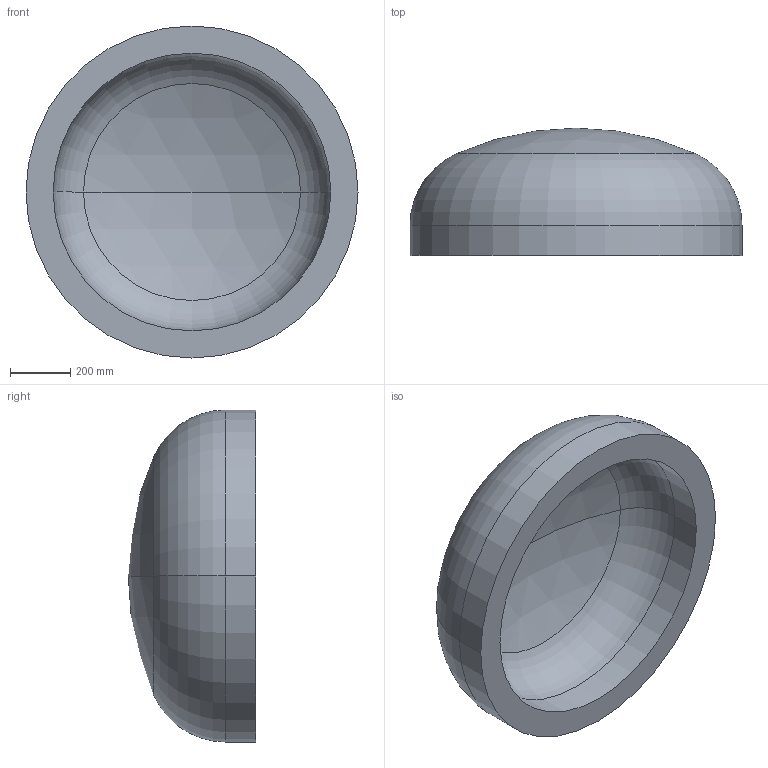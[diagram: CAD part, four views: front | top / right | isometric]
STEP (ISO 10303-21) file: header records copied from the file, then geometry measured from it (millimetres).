
FILE_DESCRIPTION (( 'STEP AP203' ), '1' );
FILE_NAME ('DIN 28013 Korbbogenform_-_Boden DIN 28013 - 1100 x 100 - I - s=90.step', '2016-07-01T09:14:51', ( '' ), ( '' ), 'SwSTEP 2.0', 'SolidWorks 2013', '' );
FILE_SCHEMA (( 'CONFIG_CONTROL_DESIGN' ));
Length unit declared in the file: millimetre
Products named in the file (1): DIN 28013 Korbbogenform_-_Boden DIN 28013 - 1100 x 100 - I - s=90
Bounding box: 1100 x 421.93 x 1100 mm (x, y, z)
Volume: 135547451.2 mm3; surface area: 3314700.4 mm2
Topology: 1 solids, 1 shells, 13 faces, 24 edges, 14 vertices
Faces by surface type: torus 4, cylinder 4, sphere 4, plane 1
Entity records: 407 total; most frequent: DIRECTION 72, CARTESIAN_POINT 52, ORIENTED_EDGE 48, AXIS2_PLACEMENT_3D 34, EDGE_CURVE 24, CIRCLE 20, EDGE_LOOP 14, VERTEX_POINT 14
